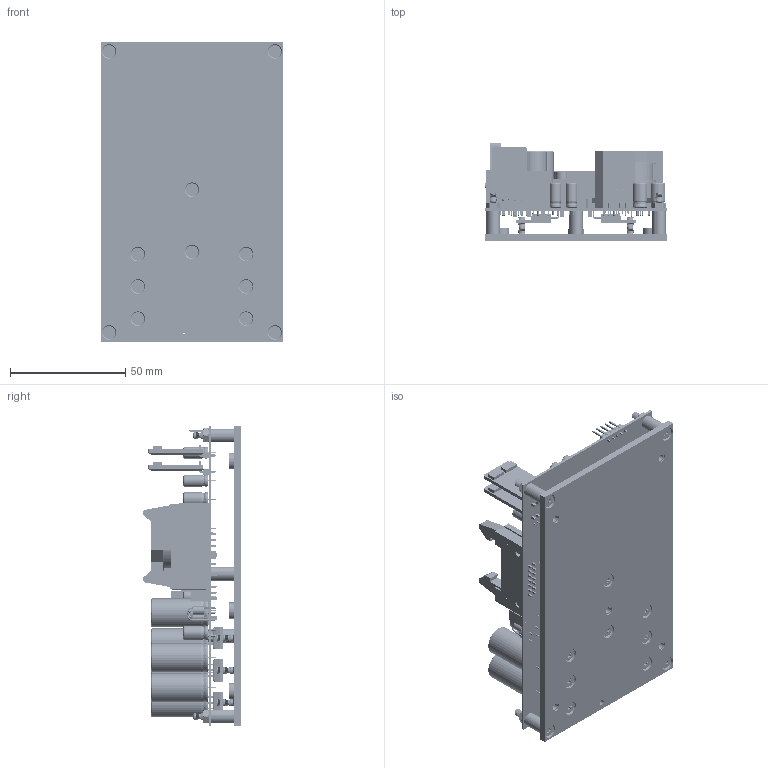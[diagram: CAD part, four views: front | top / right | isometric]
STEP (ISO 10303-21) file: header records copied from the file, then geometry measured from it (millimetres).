
FILE_DESCRIPTION (( 'STEP AP214' ), '1' );
FILE_NAME ('NC1200_08xx.STEP', '2020-09-07T14:09:06', ( '' ), ( '' ), 'SwSTEP 2.0', 'SolidWorks 2017', '' );
FILE_SCHEMA (( 'AUTOMOTIVE_DESIGN' ));
Length unit declared in the file: millimetre
Products named in the file (9): Nut M3 DIN934; Bolt M3x10 Countersunk TX Zinc_MFT-8_8-M3x10-fzb; Spacer 3x6x10mm Metal; Hsink SAA13L8W0H3T1 ; NC1200_08xx; PCB NC1200 V6; Bolt M3x20 Countersunk TX Zinc; Push-in nut
Assembly tree (32 placements, depth 3):
  NC1200_08xx
    PCB NC1200 V6
    Hsink SAA13L8W0H3T1 
      Hsink SAA13L8W0H3T1 
      Push-in nut  x5
    Spacer 3x6x10mm Metal  x6
    Bolt M3x10 Countersunk TX Zinc_MFT-8_8-M3x10-fzb  x6
    Bolt M3x20 Countersunk TX Zinc  x6
    Nut M3 DIN934  x6
Bounding box: 79 x 42.76 x 130 mm (x, y, z)
Volume: 33170.1 mm3; surface area: 93583.3 mm2
Topology: 30 solids, 198 shells, 5610 faces, 14590 edges, 9030 vertices
Faces by surface type: cylinder 1876, cone 1524, plane 1397, bspline 813
Entity records: 123214 total; most frequent: CARTESIAN_POINT 25008, DIRECTION 15573, ORIENTED_EDGE 14055, EDGE_CURVE 8007, AXIS2_PLACEMENT_3D 5302, VERTEX_POINT 5302, VECTOR 4969, LINE 4969
